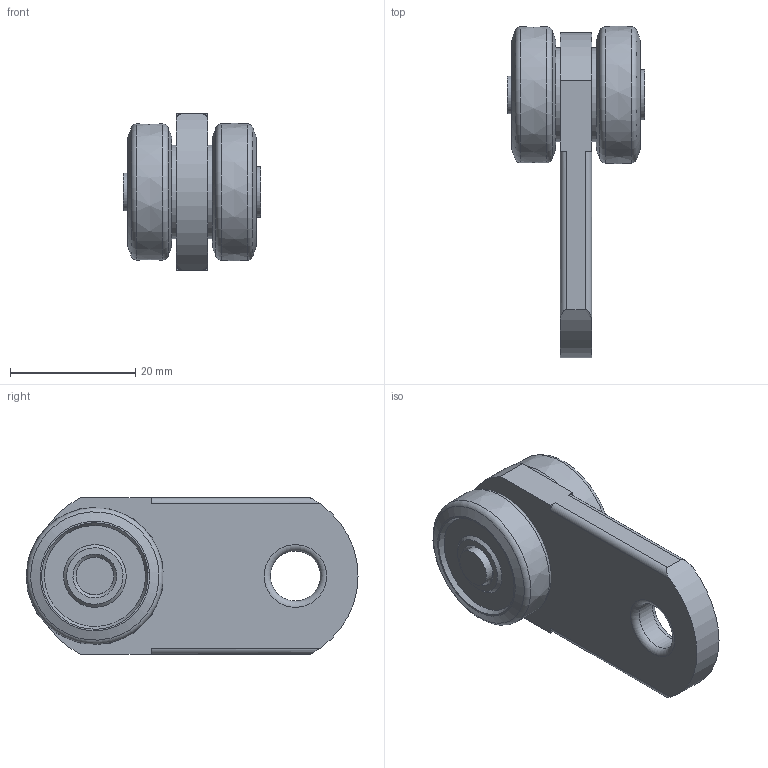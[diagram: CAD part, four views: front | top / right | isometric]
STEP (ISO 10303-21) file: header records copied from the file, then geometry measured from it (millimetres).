
FILE_DESCRIPTION(/* description */ ('Bolzen'),/* implementation_level */ '2;1');
FILE_NAME(/* name */ 'Q:\sge-ma\Produktmanagement-STB\STB\Workspace\TraceParts\Einfachrolle zum Einhängen\010336805.stp',/* time_stamp */ '2016-07-15T12:55:01+02:00',/* author */ ('avschreier'),/* organization */ (''),/* preprocessor_version */ 'ST-DEVELOPER v16.1',/* originating_system */ 'Autodesk Inventor 2016',/* authorisation */ '');
FILE_SCHEMA (('AUTOMOTIVE_DESIGN { 1 0 10303 214 3 1 1 }'));
Length unit declared in the file: millimetre
Products named in the file (5): 000304010; 000226090; 000336805; 000303234; 010336805
Assembly tree (6 placements, depth 2):
  010336805
    000304010
    000226090  x2
    000336805
    000303234  x2
Bounding box: 22 x 52.99 x 25 mm (x, y, z)
Volume: 10596.7 mm3; surface area: 6737.7 mm2
Topology: 6 solids, 6 shells, 68 faces, 132 edges, 85 vertices
Faces by surface type: plane 27, cylinder 16, cone 16, torus 7, bspline 2
Full cylindrical faces by diameter (mm): 6 x3, 6.1 x1, 6.4 x2, 8 x2, 15 x2
Entity records: 1299 total; most frequent: CARTESIAN_POINT 260, DIRECTION 222, ORIENTED_EDGE 144, AXIS2_PLACEMENT_3D 99, EDGE_LOOP 79, EDGE_CURVE 72, VERTEX_POINT 59, FACE_OUTER_BOUND 46
